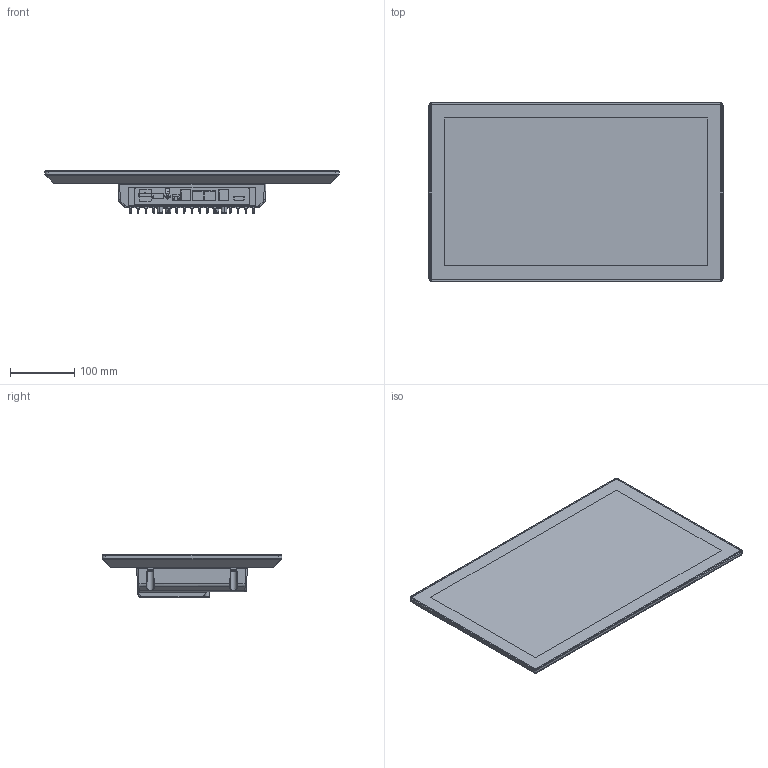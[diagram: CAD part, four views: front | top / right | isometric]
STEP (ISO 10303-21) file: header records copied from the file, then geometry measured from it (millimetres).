
FILE_DESCRIPTION (( 'STEP AP214' ), '1' );
FILE_NAME ('TP1820 (01-237-1820) Export20260305.STEP', '2026-03-12T10:03:41', ( '' ), ( '' ), 'SwSTEP 2.0', 'SolidWorks 2024', '' );
FILE_SCHEMA (( 'AUTOMOTIVE_DESIGN' ));
Length unit declared in the file: millimetre
Products named in the file (1): TP1820 (01-237-1820) Export20260305
Bounding box: 459.37 x 280.45 x 65.8 mm (x, y, z)
Volume: 3515760.1 mm3; surface area: 731739.8 mm2
Topology: 23 solids, 23 shells, 1675 faces, 3969 edges, 2296 vertices
Faces by surface type: cylinder 545, plane 455, bspline 354, torus 171, cone 138, sphere 12
Entity records: 84004 total; most frequent: CARTESIAN_POINT 30798, ORIENTED_EDGE 7798, DIRECTION 6869, EDGE_CURVE 3899, AXIS2_PLACEMENT_3D 2600, VERTEX_POINT 2296, EDGE_LOOP 1755, ADVANCED_FACE 1675
